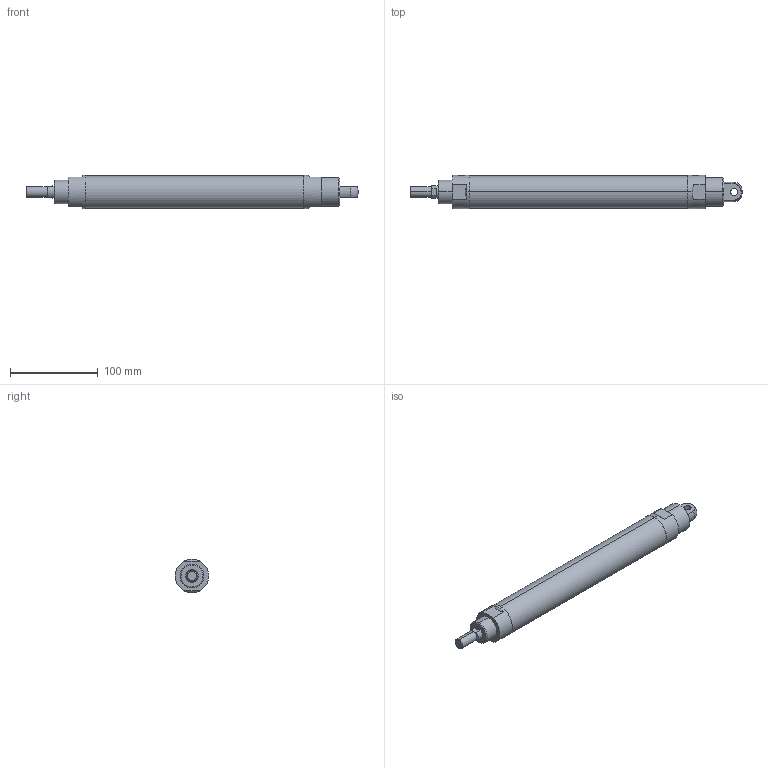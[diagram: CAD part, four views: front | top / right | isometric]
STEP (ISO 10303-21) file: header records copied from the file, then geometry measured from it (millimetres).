
FILE_DESCRIPTION (( 'STEP AP203' ), '1' );
FILE_NAME ('J#2-32-200-C.STEP', '2016-03-08T07:42:50', ( '' ), ( '' ), 'SwSTEP 2.0', 'SolidWorks 2014', '' );
FILE_SCHEMA (( 'CONFIG_CONTROL_DESIGN' ));
Length unit declared in the file: millimetre
Products named in the file (1): J#2-32-200-C
Bounding box: 379 x 38 x 38 mm (x, y, z)
Volume: 352764.4 mm3; surface area: 43586.7 mm2
Topology: 1 solids, 1 shells, 59 faces, 138 edges, 85 vertices
Faces by surface type: cylinder 22, plane 20, cone 15, torus 2
Entity records: 1996 total; most frequent: CARTESIAN_POINT 574, DIRECTION 293, ORIENTED_EDGE 268, EDGE_CURVE 134, AXIS2_PLACEMENT_3D 118, VERTEX_POINT 85, EDGE_LOOP 69, ADVANCED_FACE 59
